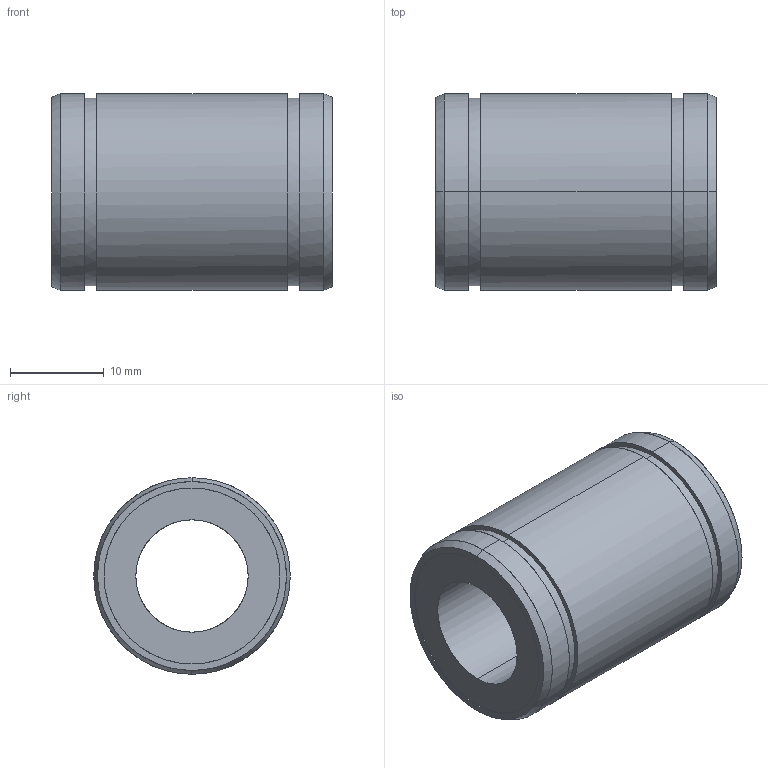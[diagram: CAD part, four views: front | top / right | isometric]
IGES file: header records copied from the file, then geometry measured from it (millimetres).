
Global section: file name: No Iges File Name specified; native system: AutoDesk Inventor R10; preprocessor: AutoDesk Inventor Iges Exporter R10; author: No Author specified; organization: No Organization specified; date: 20101208.094824; units: millimetre
Bounding box: 30 x 21 x 21 mm (x, y, z)
Surface area: 3658.7 mm2 (no closed solid volume)
Topology: 0 solids, 0 shells, 28 faces, 184 edges, 184 vertices
Faces by surface type: bspline 28
